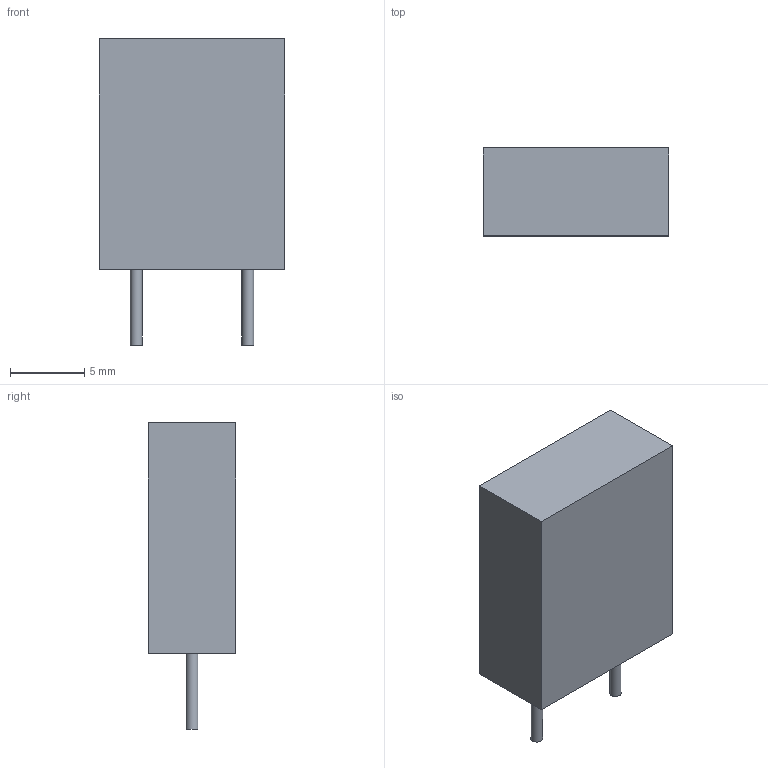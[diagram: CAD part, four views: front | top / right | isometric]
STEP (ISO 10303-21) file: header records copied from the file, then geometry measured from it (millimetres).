
FILE_DESCRIPTION(('FreeCAD Model'),'2;1');
FILE_NAME('/var/www/3D/0T/1392443.1.1.stp','2021-12-05T15:49:50',( 'Author'),(''),'Open CASCADE STEP processor 6.9','FreeCAD','Unknown' );
FILE_SCHEMA(('AUTOMOTIVE_DESIGN { 1 0 10303 214 1 1 1 1 }'));
Length unit declared in the file: millimetre
Products named in the file (3): ASSEMBLY; Body; Leads
Assembly tree (2 placements, depth 2):
  ASSEMBLY
    Body
    Leads
Bounding box: 12.5 x 5.9 x 20.6 mm (x, y, z)
Volume: 1148.3 mm3; surface area: 745.5 mm2
Topology: 3 solids, 3 shells, 12 faces, 18 edges, 12 vertices
Faces by surface type: plane 10, cylinder 2
Full cylindrical faces by diameter (mm): 0.8 x2
Entity records: 573 total; most frequent: DIRECTION 88, CARTESIAN_POINT 81, LINE 46, VECTOR 46, ORIENTED_EDGE 36, PCURVE 36, DEFINITIONAL_REPRESENTATION 36, AXIS2_PLACEMENT_3D 19
